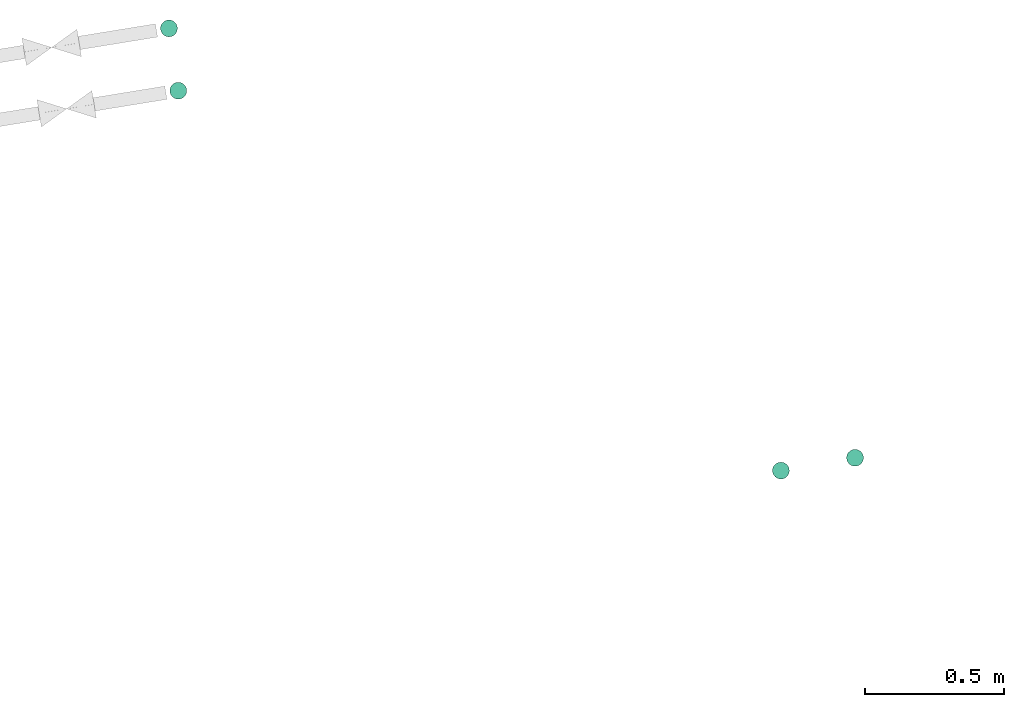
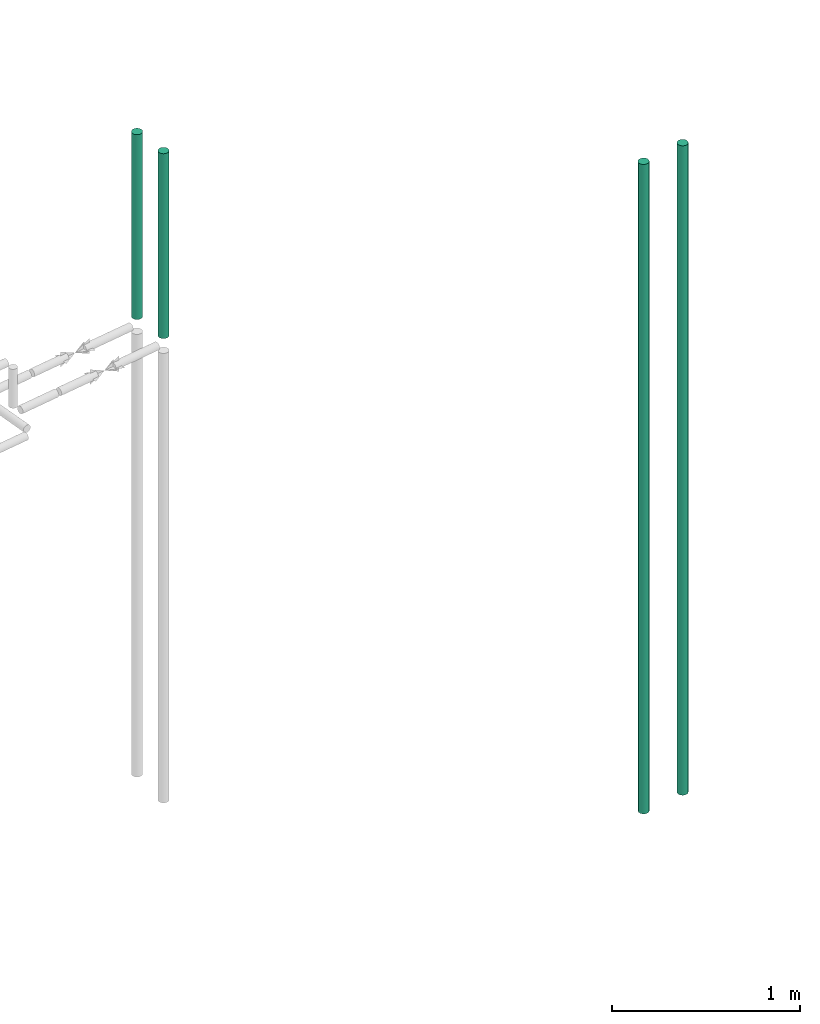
# One storey, part 7 of 8: 4 flow segments.
"""IFC2X3 building model written with IfcOpenShell, lengths in millimetres."""

from ifc_helpers import new_model, entity, si_unit, converted_unit, derived_unit, direction, frame, origin, origin_with_axes, place, context, subcontext, project, spatial, faceted_brep, type_object, element, save


model = new_model("IFC2X3")

# Units and contexts
model_context = context("Model", 3, precision=0.01, world=origin(), true_north=direction((6.12323399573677e-17, 1.0)))
plan_context = context("Plan", 3, precision=1e-05, world=origin_with_axes())
body_context = subcontext(model_context, "Body", "Model", "MODEL_VIEW")
ifc_project = project(units=[converted_unit("PLANEANGLEUNIT", "DEGREE", entity("IfcPositiveLengthMeasure", 0.0174532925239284), si_unit("PLANEANGLEUNIT", "RADIAN"), dimensions=[0, 0, 0, 0, 0, 0, 0]), si_unit("AREAUNIT", "SQUARE_METRE"), si_unit("LENGTHUNIT", "METRE", prefix="MILLI"), si_unit("MASSUNIT", "GRAM", prefix="KILO"), si_unit("POWERUNIT", "WATT"), si_unit("PRESSUREUNIT", "PASCAL", prefix="KILO"), si_unit("FORCEUNIT", "NEWTON", prefix="KILO"), si_unit("ELECTRICVOLTAGEUNIT", "VOLT"), si_unit("ELECTRICCURRENTUNIT", "AMPERE"), si_unit("THERMODYNAMICTEMPERATUREUNIT", "DEGREE_CELSIUS"), si_unit("TIMEUNIT", "SECOND"), si_unit("VOLUMEUNIT", "CUBIC_METRE"), derived_unit("LINEARVELOCITYUNIT", [(si_unit("LENGTHUNIT", "METRE"), 1), (si_unit("TIMEUNIT", "SECOND"), -1)]), derived_unit("VOLUMETRICFLOWRATEUNIT", [(si_unit("VOLUMEUNIT", "CUBIC_METRE"), 1), (si_unit("TIMEUNIT", "SECOND"), -1)]), derived_unit("THERMALTRANSMITTANCEUNIT", [(si_unit("POWERUNIT", "WATT"), 1), (si_unit("THERMODYNAMICTEMPERATUREUNIT", "KELVIN"), -1), (si_unit("AREAUNIT", "SQUARE_METRE"), -1)]), derived_unit("SOUNDPRESSUREUNIT", [(si_unit("PRESSUREUNIT", "PASCAL"), 1)])], contexts=[model_context, plan_context])

# Site, building, storey
site_placement = place(None, frame((-0.00071070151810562, 0.00438415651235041, 0.0), z_axis=(0.0, 0.0, 1.0), x_axis=(-0.160236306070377, 0.987078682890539, 0.0)))
site = spatial("IfcSite", under=ifc_project, at=site_placement, Name="Default", CompositionType="ELEMENT")
building_placement = place(site_placement, origin_with_axes())
building = spatial("IfcBuilding", under=site, at=building_placement, CompositionType="ELEMENT")
storey_placement = place(building_placement, frame((0.0, 0.0, 50999.9999999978), z_axis=(0.0, 0.0, 1.0), x_axis=(1.0, 0.0, 0.0)))
storey = spatial("IfcBuildingStorey", under=building, at=storey_placement, Name="Nivå D", CompositionType="ELEMENT", Elevation=50999.9999999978)

# Flow segments
pipe_segment_type_1 = type_object("IfcPipeSegmentType", Name="Pipe Types:Stålrør normaltykke", PredefinedType="NOTDEFINED")
flow_segment_1_placement = place(storey_placement, origin_with_axes())
element("IfcFlowSegment", 1, at=flow_segment_1_placement, inside=storey, type_object=pipe_segment_type_1, Name="Pipe Types:Stålrør normaltykke", ObjectType="Pipe Types:Stålrør normaltykke", context=body_context, shape_type="Brep", body=[
    faceted_brep([(775863.491288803, -596869.101902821, 4200.0), (775863.949335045, -596863.866410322, 4200.0), (775863.949335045, -596863.866410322, -21.5999999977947), (775863.491288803, -596869.101902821, -21.5999999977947), (775863.491288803, -596858.630917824, 4200.0), (775863.491288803, -596858.630917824, -21.5999999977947), (775862.131067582, -596853.554503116, 4200.0), (775862.131067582, -596853.554503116, -21.5999999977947), (775859.910001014, -596848.79141049, 4200.0), (775859.910001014, -596848.79141049, -21.5999999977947), (775856.895575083, -596844.486364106, 4200.0), (775856.895575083, -596844.486364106, -21.5999999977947), (775853.179381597, -596840.770170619, 4200.0), (775853.179381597, -596840.770170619, -21.5999999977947), (775848.874335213, -596837.755744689, 4200.0), (775848.874335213, -596837.755744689, -21.5999999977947), (775844.111242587, -596835.534678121, 4200.0), (775844.111242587, -596835.534678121, -21.5999999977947), (775839.034827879, -596834.1744569, 4200.0), (775839.034827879, -596834.1744569, -21.5999999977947), (775833.79933538, -596833.716410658, 4200.0), (775833.79933538, -596833.716410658, -21.5999999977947), (775828.563842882, -596834.1744569, 4200.0), (775828.563842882, -596834.1744569, -21.5999999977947), (775823.487428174, -596835.534678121, 4200.0), (775823.487428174, -596835.534678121, -21.5999999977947), (775818.724335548, -596837.755744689, 4200.0), (775818.724335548, -596837.755744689, -21.5999999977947), (775814.419289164, -596840.770170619, 4200.0), (775814.419289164, -596840.770170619, -21.5999999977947), (775810.703095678, -596844.486364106, 4200.0), (775810.703095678, -596844.486364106, -21.5999999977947), (775807.688669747, -596848.79141049, 4200.0), (775807.688669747, -596848.79141049, -21.5999999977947), (775805.467603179, -596853.554503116, 4200.0), (775805.467603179, -596853.554503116, -21.5999999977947), (775804.107381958, -596858.630917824, 4200.0), (775804.107381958, -596858.630917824, -21.5999999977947), (775803.649335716, -596863.866410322, 4200.0), (775803.649335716, -596863.866410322, -21.5999999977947), (775804.107381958, -596869.101902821, 4200.0), (775804.107381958, -596869.101902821, -21.5999999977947), (775805.467603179, -596874.178317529, 4200.0), (775805.467603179, -596874.178317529, -21.5999999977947), (775807.688669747, -596878.941410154, 4200.0), (775807.688669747, -596878.941410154, -21.5999999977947), (775810.703095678, -596883.246456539, 4200.0), (775810.703095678, -596883.246456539, -21.5999999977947), (775814.419289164, -596886.962650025, 4200.0), (775814.419289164, -596886.962650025, -21.5999999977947), (775818.724335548, -596889.977075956, 4200.0), (775818.724335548, -596889.977075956, -21.5999999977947), (775823.487428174, -596892.198142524, 4200.0), (775823.487428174, -596892.198142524, -21.5999999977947), (775828.563842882, -596893.558363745, 4200.0), (775828.563842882, -596893.558363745, -21.5999999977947), (775833.79933538, -596894.016409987, 4200.0), (775833.79933538, -596894.016409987, -21.5999999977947), (775839.034827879, -596893.558363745, 4200.0), (775839.034827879, -596893.558363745, -21.5999999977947), (775844.111242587, -596892.198142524, 4200.0), (775844.111242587, -596892.198142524, -21.5999999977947), (775848.874335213, -596889.977075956, 4200.0), (775848.874335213, -596889.977075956, -21.5999999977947), (775853.179381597, -596886.962650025, 4200.0), (775853.179381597, -596886.962650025, -21.5999999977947), (775856.895575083, -596883.246456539, 4200.0), (775856.895575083, -596883.246456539, -21.5999999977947), (775859.910001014, -596878.941410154, 4200.0), (775859.910001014, -596878.941410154, -21.5999999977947), (775862.131067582, -596874.178317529, 4200.0), (775862.131067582, -596874.178317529, -21.5999999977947)], [[[0, 1, 2, 3]], [[1, 4, 5, 2]], [[4, 6, 7, 5]], [[6, 8, 9, 7]], [[8, 10, 11, 9]], [[10, 12, 13, 11]], [[12, 14, 15, 13]], [[14, 16, 17, 15]], [[16, 18, 19, 17]], [[18, 20, 21, 19]], [[20, 22, 23, 21]], [[22, 24, 25, 23]], [[24, 26, 27, 25]], [[26, 28, 29, 27]], [[28, 30, 31, 29]], [[30, 32, 33, 31]], [[32, 34, 35, 33]], [[34, 36, 37, 35]], [[36, 38, 39, 37]], [[38, 40, 41, 39]], [[40, 42, 43, 41]], [[42, 44, 45, 43]], [[44, 46, 47, 45]], [[46, 48, 49, 47]], [[48, 50, 51, 49]], [[50, 52, 53, 51]], [[52, 54, 55, 53]], [[54, 56, 57, 55]], [[56, 58, 59, 57]], [[58, 60, 61, 59]], [[60, 62, 63, 61]], [[62, 64, 65, 63]], [[64, 66, 67, 65]], [[66, 68, 69, 67]], [[68, 70, 71, 69]], [[70, 0, 3, 71]], [[3, 2, 5, 7, 9, 11, 13, 15, 17, 19, 21, 23, 25, 27, 29, 31, 33, 35, 37, 39, 41, 43, 45, 47, 49, 51, 53, 55, 57, 59, 61, 63, 65, 67, 69, 71]], [[70, 68, 66, 64, 62, 60, 58, 56, 54, 52, 50, 48, 46, 44, 42, 40, 38, 36, 34, 32, 30, 28, 26, 24, 22, 20, 18, 16, 14, 12, 10, 8, 6, 4, 1, 0]]], orient=[[False], [False], [False], [False], [False], [False], [False], [False], [False], [False], [False], [False], [False], [False], [False], [False], [False], [False], [False], [False], [False], [False], [False], [False], [False], [False], [False], [False], [False], [False], [False], [False], [False], [False], [False], [False], [False], [False]]),
])
flow_segment_2_placement = place(storey_placement, origin_with_axes())
element("IfcFlowSegment", 2, at=flow_segment_2_placement, inside=storey, type_object=pipe_segment_type_1, Name="Pipe Types:Stålrør normaltykke", ObjectType="Pipe Types:Stålrør normaltykke", context=body_context, shape_type="Brep", body=[
    faceted_brep([(775860.777795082, -596598.994155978, 4200.0), (775861.235841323, -596593.758663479, 4200.0), (775861.235841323, -596593.758663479, -21.5999999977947), (775860.777795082, -596598.994155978, -21.5999999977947), (775860.777795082, -596588.523170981, 4200.0), (775860.777795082, -596588.523170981, -21.5999999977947), (775859.41757386, -596583.446756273, 4200.0), (775859.41757386, -596583.446756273, -21.5999999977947), (775857.196507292, -596578.683663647, 4200.0), (775857.196507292, -596578.683663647, -21.5999999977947), (775854.182081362, -596574.378617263, 4200.0), (775854.182081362, -596574.378617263, -21.5999999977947), (775850.465887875, -596570.662423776, 4200.0), (775850.465887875, -596570.662423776, -21.5999999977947), (775846.160841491, -596567.647997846, 4200.0), (775846.160841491, -596567.647997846, -21.5999999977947), (775841.397748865, -596565.426931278, 4200.0), (775841.397748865, -596565.426931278, -21.5999999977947), (775836.321334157, -596564.066710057, 4200.0), (775836.321334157, -596564.066710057, -21.5999999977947), (775831.085841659, -596563.608663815, 4200.0), (775831.085841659, -596563.608663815, -21.5999999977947), (775825.850349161, -596564.066710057, 4200.0), (775825.850349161, -596564.066710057, -21.5999999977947), (775820.773934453, -596565.426931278, 4200.0), (775820.773934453, -596565.426931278, -21.5999999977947), (775816.010841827, -596567.647997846, 4200.0), (775816.010841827, -596567.647997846, -21.5999999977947), (775811.705795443, -596570.662423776, 4200.0), (775811.705795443, -596570.662423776, -21.5999999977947), (775807.989601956, -596574.378617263, 4200.0), (775807.989601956, -596574.378617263, -21.5999999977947), (775804.975176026, -596578.683663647, 4200.0), (775804.975176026, -596578.683663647, -21.5999999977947), (775802.754109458, -596583.446756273, 4200.0), (775802.754109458, -596583.446756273, -21.5999999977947), (775801.393888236, -596588.523170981, 4200.0), (775801.393888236, -596588.523170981, -21.5999999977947), (775800.935841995, -596593.758663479, 4200.0), (775800.935841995, -596593.758663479, -21.5999999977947), (775801.393888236, -596598.994155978, 4200.0), (775801.393888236, -596598.994155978, -21.5999999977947), (775802.754109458, -596604.070570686, 4200.0), (775802.754109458, -596604.070570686, -21.5999999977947), (775804.975176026, -596608.833663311, 4200.0), (775804.975176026, -596608.833663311, -21.5999999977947), (775807.989601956, -596613.138709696, 4200.0), (775807.989601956, -596613.138709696, -21.5999999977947), (775811.705795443, -596616.854903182, 4200.0), (775811.705795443, -596616.854903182, -21.5999999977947), (775816.010841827, -596619.869329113, 4200.0), (775816.010841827, -596619.869329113, -21.5999999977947), (775820.773934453, -596622.090395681, 4200.0), (775820.773934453, -596622.090395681, -21.5999999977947), (775825.850349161, -596623.450616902, 4200.0), (775825.850349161, -596623.450616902, -21.5999999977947), (775831.085841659, -596623.908663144, 4200.0), (775831.085841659, -596623.908663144, -21.5999999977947), (775836.321334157, -596623.450616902, 4200.0), (775836.321334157, -596623.450616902, -21.5999999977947), (775841.397748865, -596622.090395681, 4200.0), (775841.397748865, -596622.090395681, -21.5999999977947), (775846.160841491, -596619.869329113, 4200.0), (775846.160841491, -596619.869329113, -21.5999999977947), (775850.465887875, -596616.854903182, 4200.0), (775850.465887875, -596616.854903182, -21.5999999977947), (775854.182081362, -596613.138709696, 4200.0), (775854.182081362, -596613.138709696, -21.5999999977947), (775857.196507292, -596608.833663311, 4200.0), (775857.196507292, -596608.833663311, -21.5999999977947), (775859.41757386, -596604.070570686, 4200.0), (775859.41757386, -596604.070570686, -21.5999999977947)], [[[0, 1, 2, 3]], [[1, 4, 5, 2]], [[4, 6, 7, 5]], [[6, 8, 9, 7]], [[8, 10, 11, 9]], [[10, 12, 13, 11]], [[12, 14, 15, 13]], [[14, 16, 17, 15]], [[16, 18, 19, 17]], [[18, 20, 21, 19]], [[20, 22, 23, 21]], [[22, 24, 25, 23]], [[24, 26, 27, 25]], [[26, 28, 29, 27]], [[28, 30, 31, 29]], [[30, 32, 33, 31]], [[32, 34, 35, 33]], [[34, 36, 37, 35]], [[36, 38, 39, 37]], [[38, 40, 41, 39]], [[40, 42, 43, 41]], [[42, 44, 45, 43]], [[44, 46, 47, 45]], [[46, 48, 49, 47]], [[48, 50, 51, 49]], [[50, 52, 53, 51]], [[52, 54, 55, 53]], [[54, 56, 57, 55]], [[56, 58, 59, 57]], [[58, 60, 61, 59]], [[60, 62, 63, 61]], [[62, 64, 65, 63]], [[64, 66, 67, 65]], [[66, 68, 69, 67]], [[68, 70, 71, 69]], [[70, 0, 3, 71]], [[3, 2, 5, 7, 9, 11, 13, 15, 17, 19, 21, 23, 25, 27, 29, 31, 33, 35, 37, 39, 41, 43, 45, 47, 49, 51, 53, 55, 57, 59, 61, 63, 65, 67, 69, 71]], [[70, 68, 66, 64, 62, 60, 58, 56, 54, 52, 50, 48, 46, 44, 42, 40, 38, 36, 34, 32, 30, 28, 26, 24, 22, 20, 18, 16, 14, 12, 10, 8, 6, 4, 1, 0]]], orient=[[False], [False], [False], [False], [False], [False], [False], [False], [False], [False], [False], [False], [False], [False], [False], [False], [False], [False], [False], [False], [False], [False], [False], [False], [False], [False], [False], [False], [False], [False], [False], [False], [False], [False], [False], [False], [False], [False]]),
])
pipe_segment_type_2 = type_object("IfcPipeSegmentType", Name="Pipe Types:Stålrør syrefast AISI 316", PredefinedType="NOTDEFINED")
flow_segment_3_placement = place(storey_placement, origin_with_axes())
element("IfcFlowSegment", 3, at=flow_segment_3_placement, inside=storey, type_object=pipe_segment_type_2, Name="Pipe Types:Stålrør syrefast AISI 316", ObjectType="Pipe Types:Stålrør syrefast AISI 316", context=body_context, shape_type="Brep", body=[
    faceted_brep([(777554.27874233, -594681.315495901, 4200.0), (777554.736788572, -594676.080003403, 4200.0), (777554.736788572, -594676.080003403, 2998.39999999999), (777554.27874233, -594681.315495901, 2998.39999999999), (777554.27874233, -594670.844510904, 4200.0), (777554.27874233, -594670.844510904, 2998.39999999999), (777552.918521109, -594665.768096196, 4200.0), (777552.918521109, -594665.768096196, 2998.39999999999), (777550.697454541, -594661.005003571, 4200.0), (777550.697454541, -594661.005003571, 2998.39999999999), (777547.68302861, -594656.699957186, 4200.0), (777547.68302861, -594656.699957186, 2998.39999999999), (777543.966835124, -594652.9837637, 4200.0), (777543.966835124, -594652.9837637, 2998.39999999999), (777539.66178874, -594649.969337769, 4200.0), (777539.66178874, -594649.969337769, 2998.39999999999), (777534.898696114, -594647.748271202, 4200.0), (777534.898696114, -594647.748271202, 2998.39999999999), (777529.822281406, -594646.38804998, 4200.0), (777529.822281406, -594646.38804998, 2998.39999999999), (777524.586788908, -594645.930003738, 4200.0), (777524.586788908, -594645.930003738, 2998.39999999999), (777519.351296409, -594646.38804998, 4200.0), (777519.351296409, -594646.38804998, 2998.39999999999), (777514.274881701, -594647.748271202, 4200.0), (777514.274881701, -594647.748271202, 2998.39999999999), (777509.511789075, -594649.969337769, 4200.0), (777509.511789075, -594649.969337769, 2998.39999999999), (777505.206742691, -594652.9837637, 4200.0), (777505.206742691, -594652.9837637, 2998.39999999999), (777501.490549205, -594656.699957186, 4200.0), (777501.490549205, -594656.699957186, 2998.39999999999), (777498.476123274, -594661.005003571, 4200.0), (777498.476123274, -594661.005003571, 2998.39999999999), (777496.255056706, -594665.768096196, 4200.0), (777496.255056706, -594665.768096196, 2998.39999999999), (777494.894835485, -594670.844510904, 4200.0), (777494.894835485, -594670.844510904, 2998.39999999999), (777494.436789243, -594676.080003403, 4200.0), (777494.436789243, -594676.080003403, 2998.39999999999), (777494.894835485, -594681.315495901, 4200.0), (777494.894835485, -594681.315495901, 2998.39999999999), (777496.255056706, -594686.391910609, 4200.0), (777496.255056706, -594686.391910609, 2998.39999999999), (777498.476123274, -594691.155003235, 4200.0), (777498.476123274, -594691.155003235, 2998.39999999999), (777501.490549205, -594695.460049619, 4200.0), (777501.490549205, -594695.460049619, 2998.39999999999), (777505.206742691, -594699.176243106, 4200.0), (777505.206742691, -594699.176243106, 2998.39999999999), (777509.511789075, -594702.190669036, 4200.0), (777509.511789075, -594702.190669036, 2998.39999999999), (777514.274881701, -594704.411735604, 4200.0), (777514.274881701, -594704.411735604, 2998.39999999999), (777519.351296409, -594705.771956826, 4200.0), (777519.351296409, -594705.771956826, 2998.39999999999), (777524.586788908, -594706.230003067, 4200.0), (777524.586788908, -594706.230003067, 2998.39999999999), (777529.822281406, -594705.771956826, 4200.0), (777529.822281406, -594705.771956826, 2998.39999999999), (777534.898696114, -594704.411735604, 4200.0), (777534.898696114, -594704.411735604, 2998.39999999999), (777539.66178874, -594702.190669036, 4200.0), (777539.66178874, -594702.190669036, 2998.39999999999), (777543.966835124, -594699.176243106, 4200.0), (777543.966835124, -594699.176243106, 2998.39999999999), (777547.68302861, -594695.460049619, 4200.0), (777547.68302861, -594695.460049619, 2998.39999999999), (777550.697454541, -594691.155003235, 4200.0), (777550.697454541, -594691.155003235, 2998.39999999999), (777552.918521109, -594686.391910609, 4200.0), (777552.918521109, -594686.391910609, 2998.39999999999)], [[[0, 1, 2, 3]], [[1, 4, 5, 2]], [[4, 6, 7, 5]], [[6, 8, 9, 7]], [[8, 10, 11, 9]], [[10, 12, 13, 11]], [[12, 14, 15, 13]], [[14, 16, 17, 15]], [[16, 18, 19, 17]], [[18, 20, 21, 19]], [[20, 22, 23, 21]], [[22, 24, 25, 23]], [[24, 26, 27, 25]], [[26, 28, 29, 27]], [[28, 30, 31, 29]], [[30, 32, 33, 31]], [[32, 34, 35, 33]], [[34, 36, 37, 35]], [[36, 38, 39, 37]], [[38, 40, 41, 39]], [[40, 42, 43, 41]], [[42, 44, 45, 43]], [[44, 46, 47, 45]], [[46, 48, 49, 47]], [[48, 50, 51, 49]], [[50, 52, 53, 51]], [[52, 54, 55, 53]], [[54, 56, 57, 55]], [[56, 58, 59, 57]], [[58, 60, 61, 59]], [[60, 62, 63, 61]], [[62, 64, 65, 63]], [[64, 66, 67, 65]], [[66, 68, 69, 67]], [[68, 70, 71, 69]], [[70, 0, 3, 71]], [[3, 2, 5, 7, 9, 11, 13, 15, 17, 19, 21, 23, 25, 27, 29, 31, 33, 35, 37, 39, 41, 43, 45, 47, 49, 51, 53, 55, 57, 59, 61, 63, 65, 67, 69, 71]], [[70, 68, 66, 64, 62, 60, 58, 56, 54, 52, 50, 48, 46, 44, 42, 40, 38, 36, 34, 32, 30, 28, 26, 24, 22, 20, 18, 16, 14, 12, 10, 8, 6, 4, 1, 0]]], orient=[[False], [False], [False], [False], [False], [False], [False], [False], [False], [False], [False], [False], [False], [False], [False], [False], [False], [False], [False], [False], [False], [False], [False], [False], [False], [False], [False], [False], [False], [False], [False], [False], [False], [False], [False], [False], [False], [False]]),
])
flow_segment_4_placement = place(storey_placement, origin_with_axes())
element("IfcFlowSegment", 4, at=flow_segment_4_placement, inside=storey, type_object=pipe_segment_type_2, Name="Pipe Types:Stålrør syrefast AISI 316", ObjectType="Pipe Types:Stålrør syrefast AISI 316", context=body_context, shape_type="Brep", body=[
    faceted_brep([(777780.55291231, -594684.062141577, 4200.0), (777781.010958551, -594678.826649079, 4200.0), (777781.010958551, -594678.826649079, 2998.39999999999), (777780.55291231, -594684.062141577, 2998.39999999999), (777780.55291231, -594673.59115658, 4200.0), (777780.55291231, -594673.59115658, 2998.39999999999), (777779.192691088, -594668.514741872, 4200.0), (777779.192691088, -594668.514741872, 2998.39999999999), (777776.97162452, -594663.751649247, 4200.0), (777776.97162452, -594663.751649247, 2998.39999999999), (777773.95719859, -594659.446602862, 4200.0), (777773.95719859, -594659.446602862, 2998.39999999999), (777770.241005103, -594655.730409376, 4200.0), (777770.241005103, -594655.730409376, 2998.39999999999), (777765.935958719, -594652.715983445, 4200.0), (777765.935958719, -594652.715983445, 2998.39999999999), (777761.172866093, -594650.494916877, 4200.0), (777761.172866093, -594650.494916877, 2998.39999999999), (777756.096451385, -594649.134695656, 4200.0), (777756.096451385, -594649.134695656, 2998.39999999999), (777750.860958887, -594648.676649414, 4200.0), (777750.860958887, -594648.676649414, 2998.39999999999), (777745.625466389, -594649.134695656, 4200.0), (777745.625466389, -594649.134695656, 2998.39999999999), (777740.54905168, -594650.494916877, 4200.0), (777740.54905168, -594650.494916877, 2998.39999999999), (777735.785959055, -594652.715983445, 4200.0), (777735.785959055, -594652.715983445, 2998.39999999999), (777731.48091267, -594655.730409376, 4200.0), (777731.480912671, -594655.730409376, 2998.39999999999), (777727.764719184, -594659.446602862, 4200.0), (777727.764719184, -594659.446602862, 2998.39999999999), (777724.750293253, -594663.751649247, 4200.0), (777724.750293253, -594663.751649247, 2998.39999999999), (777722.529226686, -594668.514741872, 4200.0), (777722.529226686, -594668.514741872, 2998.39999999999), (777721.169005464, -594673.59115658, 4200.0), (777721.169005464, -594673.59115658, 2998.39999999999), (777720.710959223, -594678.826649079, 4200.0), (777720.710959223, -594678.826649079, 2998.39999999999), (777721.169005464, -594684.062141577, 4200.0), (777721.169005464, -594684.062141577, 2998.39999999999), (777722.529226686, -594689.138556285, 4200.0), (777722.529226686, -594689.138556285, 2998.39999999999), (777724.750293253, -594693.901648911, 4200.0), (777724.750293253, -594693.901648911, 2998.39999999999), (777727.764719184, -594698.206695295, 4200.0), (777727.764719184, -594698.206695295, 2998.39999999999), (777731.48091267, -594701.922888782, 4200.0), (777731.480912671, -594701.922888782, 2998.39999999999), (777735.785959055, -594704.937314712, 4200.0), (777735.785959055, -594704.937314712, 2998.39999999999), (777740.54905168, -594707.15838128, 4200.0), (777740.54905168, -594707.15838128, 2998.39999999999), (777745.625466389, -594708.518602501, 4200.0), (777745.625466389, -594708.518602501, 2998.39999999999), (777750.860958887, -594708.976648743, 4200.0), (777750.860958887, -594708.976648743, 2998.39999999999), (777756.096451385, -594708.518602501, 4200.0), (777756.096451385, -594708.518602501, 2998.39999999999), (777761.172866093, -594707.15838128, 4200.0), (777761.172866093, -594707.15838128, 2998.39999999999), (777765.935958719, -594704.937314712, 4200.0), (777765.935958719, -594704.937314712, 2998.39999999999), (777770.241005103, -594701.922888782, 4200.0), (777770.241005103, -594701.922888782, 2998.39999999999), (777773.95719859, -594698.206695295, 4200.0), (777773.95719859, -594698.206695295, 2998.39999999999), (777776.97162452, -594693.901648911, 4200.0), (777776.97162452, -594693.901648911, 2998.39999999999), (777779.192691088, -594689.138556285, 4200.0), (777779.192691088, -594689.138556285, 2998.39999999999)], [[[0, 1, 2, 3]], [[1, 4, 5, 2]], [[4, 6, 7, 5]], [[6, 8, 9, 7]], [[8, 10, 11, 9]], [[10, 12, 13, 11]], [[12, 14, 15, 13]], [[14, 16, 17, 15]], [[16, 18, 19, 17]], [[18, 20, 21, 19]], [[20, 22, 23, 21]], [[22, 24, 25, 23]], [[24, 26, 27, 25]], [[26, 28, 29, 27]], [[28, 30, 31, 29]], [[30, 32, 33, 31]], [[32, 34, 35, 33]], [[34, 36, 37, 35]], [[36, 38, 39, 37]], [[38, 40, 41, 39]], [[40, 42, 43, 41]], [[42, 44, 45, 43]], [[44, 46, 47, 45]], [[46, 48, 49, 47]], [[48, 50, 51, 49]], [[50, 52, 53, 51]], [[52, 54, 55, 53]], [[54, 56, 57, 55]], [[56, 58, 59, 57]], [[58, 60, 61, 59]], [[60, 62, 63, 61]], [[62, 64, 65, 63]], [[64, 66, 67, 65]], [[66, 68, 69, 67]], [[68, 70, 71, 69]], [[70, 0, 3, 71]], [[3, 2, 5, 7, 9, 11, 13, 15, 17, 19, 21, 23, 25, 27, 29, 31, 33, 35, 37, 39, 41, 43, 45, 47, 49, 51, 53, 55, 57, 59, 61, 63, 65, 67, 69, 71]], [[70, 68, 66, 64, 62, 60, 58, 56, 54, 52, 50, 48, 46, 44, 42, 40, 38, 36, 34, 32, 30, 28, 26, 24, 22, 20, 18, 16, 14, 12, 10, 8, 6, 4, 1, 0]]], orient=[[False], [False], [False], [False], [False], [False], [False], [False], [False], [False], [False], [False], [False], [False], [False], [False], [False], [False], [False], [False], [False], [False], [False], [False], [False], [False], [False], [False], [False], [False], [False], [False], [False], [False], [False], [False], [False], [False]]),
])

save(model, "model.ifc")
